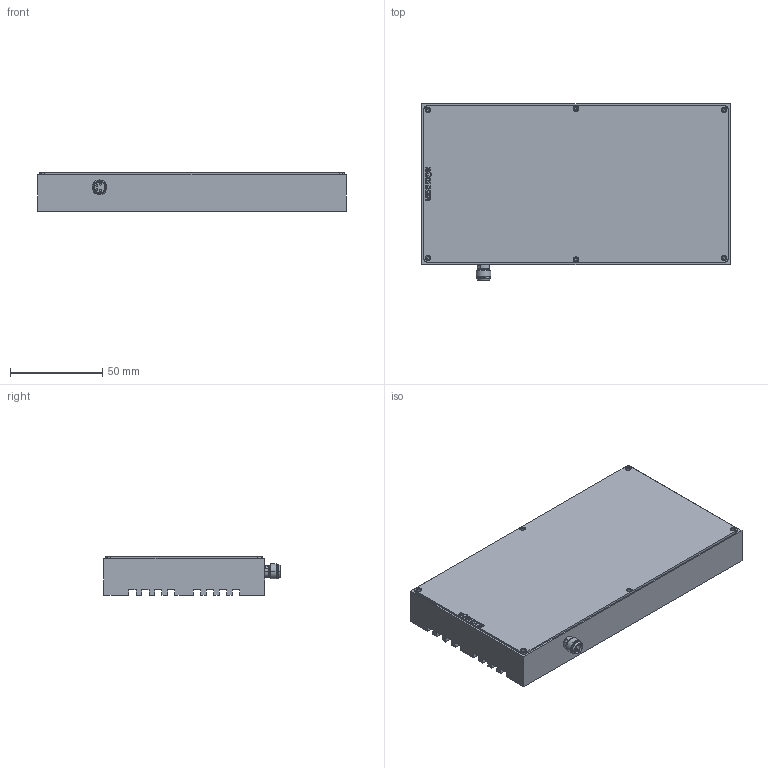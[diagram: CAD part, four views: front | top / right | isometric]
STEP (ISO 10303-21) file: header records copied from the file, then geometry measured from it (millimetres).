
FILE_DESCRIPTION(('STEP AP214'),'1');
FILE_NAME('Z:/Projekte Hr. Wünsch/SpaceClaim/TL-HL-80-160/TL-HL-80-160-komplett.stp','2013-10-30T07:41:51',(' '),(' '),'Spatial InterOp 3D',' ',' ');
FILE_SCHEMA(('automotive_design'));
Length unit declared in the file: millimetre
Products named in the file (2): TL-HL-80-160-komplett; TL-HL-80-160-Front
Assembly tree (1 placements, depth 2):
  TL-HL-80-160-komplett
    TL-HL-80-160-Front
Bounding box: 167 x 95.5 x 21 mm (x, y, z)
Volume: 288398 mm3; surface area: 50544.7 mm2
Topology: 1 solids, 3 shells, 335 faces, 842 edges, 530 vertices
Faces by surface type: plane 155, cylinder 114, cone 42, extrusion 20, sphere 4
Entity records: 13182 total; most frequent: CARTESIAN_POINT 2529, ORIENTED_EDGE 1628, DIRECTION 1611, EDGE_CURVE 814, AXIS2_PLACEMENT_3D 545, VERTEX_POINT 530, VECTOR 521, LINE 501
